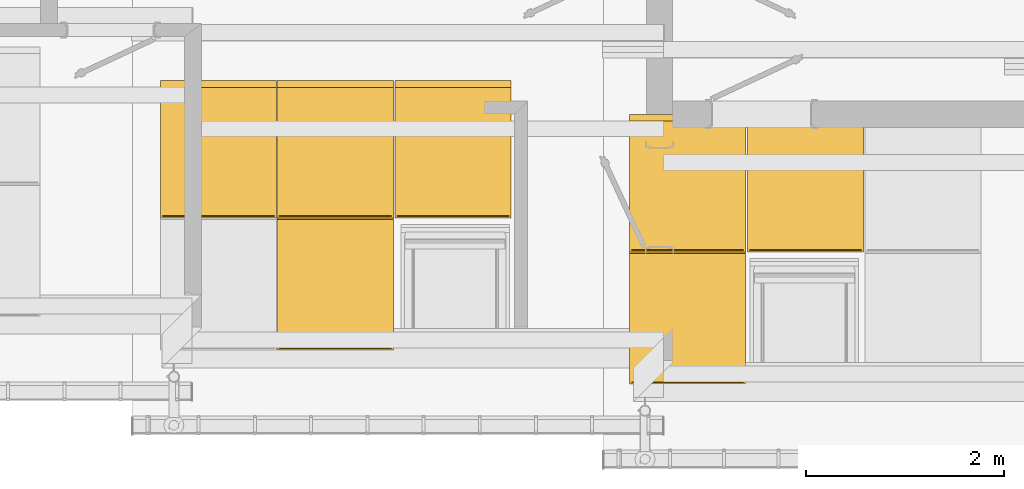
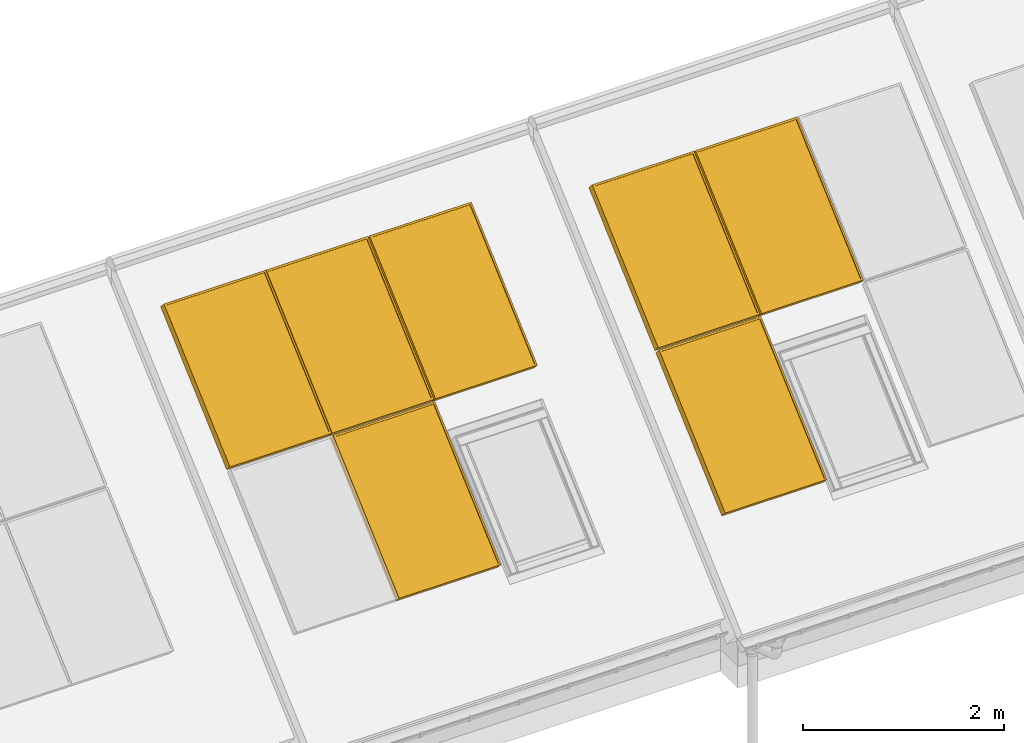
# One storey, part 14 of 43: 7 windows.
"""IFC2X3 building model written with IfcOpenShell, lengths in millimetres."""

import ifcopenshell
import ifcopenshell.guid

model = None  # the IFC model being written
_history = None  # IfcOwnerHistory: only IFC2X3 demands one
_inside = {}  # id of a spatial element -> (the spatial element, [elements in it])
_under = {}  # id of a project, library or spatial element -> (it, [spatial elements below it])
_declared = {}  # id of a project -> (the project, [libraries it declares])
_typed = {}  # id of a type object -> (the type object, [elements of that type])
_made_of = {}  # id of a material, layer set ... -> (it, [elements and type objects made of it])


def new_model(schema):
    """Start an empty IFC model of exactly this schema.

    Asked for "IFC4X3", IfcOpenShell would pick the latest addendum, in which some entities
    have other attributes; the version numbers below select the first issue.
    IFC2X3 requires an IfcOwnerHistory on every rooted entity: one is made here for all.
    """
    global model, _history
    if schema == "IFC4X3":
        model = ifcopenshell.file(schema_version=(4, 3, 0, 0))
    else:
        model = ifcopenshell.file(schema=schema)
    _inside.clear()
    _under.clear()
    _declared.clear()
    _typed.clear()
    _made_of.clear()
    _history = None
    if model.schema == "IFC2X3":
        org = make("IfcOrganization", Name="unknown")
        user = make(
            "IfcPersonAndOrganization",
            ThePerson=make("IfcPerson", FamilyName="unknown"),
            TheOrganization=org,
        )
        app = make(
            "IfcApplication",
            ApplicationDeveloper=org,
            Version="unknown",
            ApplicationFullName="unknown",
            ApplicationIdentifier="unknown",
        )
        _history = make(
            "IfcOwnerHistory",
            OwningUser=user,
            OwningApplication=app,
            ChangeAction="ADDED",
            CreationDate=0,
        )
    return model


def make(cls, **values):
    """One entity of the class cls with the attributes given. An attribute that is None is left unset."""
    return model.create_entity(
        cls, **{name: value for name, value in values.items() if value is not None}
    )


def rooted(cls, **values):
    """An entity with a GlobalId (a new one), such as an element, a storey or a relation."""
    return make(cls, GlobalId=ifcopenshell.guid.new(), OwnerHistory=_history, **values)


def si_unit(unit_type, name, prefix=None):
    """IfcSIUnit, for example si_unit("LENGTHUNIT", "METRE", prefix="MILLI")."""
    return make("IfcSIUnit", UnitType=unit_type, Prefix=prefix, Name=name)


def assignment(units):
    """IfcUnitAssignment: the units of a project."""
    return None if units is None else make("IfcUnitAssignment", Units=units)


def point(xyz):
    """IfcCartesianPoint."""
    return None if xyz is None else make("IfcCartesianPoint", Coordinates=xyz)


def direction(xyz):
    """IfcDirection."""
    return None if xyz is None else make("IfcDirection", DirectionRatios=xyz)


def frame(location, z_axis=None, x_axis=None):
    """IfcAxis2Placement3D, a coordinate frame: its origin and axes. An axis left out is left unset."""
    return make(
        "IfcAxis2Placement3D",
        Location=point(location),
        Axis=direction(z_axis),
        RefDirection=direction(x_axis),
    )


def origin_with_axes():
    """The frame at (0, 0, 0) with the z axis (0, 0, 1) and the x axis (1, 0, 0) written out."""
    return frame((0.0, 0.0, 0.0), z_axis=(0.0, 0.0, 1.0), x_axis=(1.0, 0.0, 0.0))


def place(relative_to, where):
    """IfcLocalPlacement: puts the frame where relative to a parent placement (None: the world)."""
    return make(
        "IfcLocalPlacement", PlacementRelTo=relative_to, RelativePlacement=where
    )


def context(
    kind, dimensions, precision=None, world=None, true_north=None, identifier=None
):
    """IfcGeometricRepresentationContext, for example the 3D "Model" context."""
    return make(
        "IfcGeometricRepresentationContext",
        ContextIdentifier=identifier,
        ContextType=kind,
        CoordinateSpaceDimension=dimensions,
        Precision=precision,
        WorldCoordinateSystem=world,
        TrueNorth=true_north,
    )


def project(units=None, contexts=None):
    """IfcProject with its units and contexts."""
    return rooted(
        "IfcProject",
        Name="project",
        RepresentationContexts=contexts,
        UnitsInContext=assignment(units),
    )


def spatial(cls, under=None, at=None, **own):
    """A site, building, storey or space (cls), placed at a placement, below another one or the project."""
    s = rooted(cls, ObjectPlacement=at, **own)
    if under is not None:
        _under.setdefault(under.id(), (under, []))[1].append(s)
    return s


def faces_of(points, faces, orient=None, outer=None):
    """IfcFace entities. A face is a list of loops; a loop is a list of indices into points, from 0.

    orient and outer hold one flag for each loop. By default every Orientation is true, the
    first loop of a face is its IfcFaceOuterBound and the others are IfcFaceBound.
    """
    made = []
    for i, loops in enumerate(faces):
        bounds = []
        for j, loop in enumerate(loops):
            is_outer = j == 0 if outer is None else outer[i][j]
            bounds.append(
                make(
                    "IfcFaceOuterBound" if is_outer else "IfcFaceBound",
                    Bound=make("IfcPolyLoop", Polygon=[points[k] for k in loop]),
                    Orientation=True if orient is None else orient[i][j],
                )
            )
        made.append(make("IfcFace", Bounds=bounds))
    return made


def faceted_brep(points, faces, orient=None, outer=None, voids=None):
    """IfcFacetedBrep: a solid bounded by flat faces; with voids (closed shells), ...WithVoids."""
    shared = [point(p) for p in points]
    hull = make("IfcClosedShell", CfsFaces=faces_of(shared, faces, orient, outer))
    if voids is None:
        return make("IfcFacetedBrep", Outer=hull)
    return make(
        "IfcFacetedBrepWithVoids",
        Outer=hull,
        Voids=[
            make(cls, CfsFaces=faces_of(shared, fs, o, b)) for cls, fs, o, b in voids
        ],
    )


def shape(context_of_items, identifier, shape_type, items):
    """IfcShapeRepresentation: the items that make up one representation, for example the "Body"."""
    return make(
        "IfcShapeRepresentation",
        ContextOfItems=context_of_items,
        RepresentationIdentifier=identifier,
        RepresentationType=shape_type,
        Items=items,
    )


def made_of(thing, what):
    """Note that an element or type object is made of a material, layer set ...; save() writes the relation."""
    if what is not None:
        _made_of.setdefault(what.id(), (what, []))[1].append(thing)
    return thing


def element(
    cls,
    number,
    at=None,
    inside=None,
    cuts=None,
    type_object=None,
    material=None,
    context=None,
    identifier="Body",
    shape_type=None,
    held_by="IfcProductDefinitionShape",
    body=None,
    shapes=None,
    **own,
):
    """One element of the class cls, such as IfcWall. Its Tag is "e" and its number.

    at: its placement. inside: the storey or other place that contains it. cuts: it is an
    opening in that element (IfcRelVoidsElement). A single representation is given by context,
    identifier, shape_type and body (its items); several are given by shapes. held_by: the class
    of the entity that holds the representations. save() writes the other relations.
    """
    e = rooted(cls, Tag="e%d" % number, ObjectPlacement=at, **own)
    if body is not None:
        shapes = [shape(context, identifier, shape_type, body)]
    if shapes is not None:
        e.Representation = make(held_by, Representations=shapes)
    if inside is not None:
        _inside.setdefault(inside.id(), (inside, []))[1].append(e)
    if cuts is not None:
        rooted(
            "IfcRelVoidsElement", RelatingBuildingElement=cuts, RelatedOpeningElement=e
        )
    if type_object is not None:
        _typed.setdefault(type_object.id(), (type_object, []))[1].append(e)
    return made_of(e, material)


def aggregate(whole, parts):
    """IfcRelAggregates: a whole, such as a stair, and the parts it consists of."""
    return rooted("IfcRelAggregates", RelatingObject=whole, RelatedObjects=parts)


def save(model, path):
    """Write the relations noted so far, then the file.

    IfcRelAggregates (storeys below a building ...), IfcRelContainedInSpatialStructure (elements
    in a storey), IfcRelDefinesByType, IfcRelAssociatesMaterial and IfcRelDeclares: one each for
    every whole, place, type object, material and project.
    """
    for whole, parts in _under.values():
        aggregate(whole, parts)
    for where, things in _inside.values():
        rooted(
            "IfcRelContainedInSpatialStructure",
            RelatedElements=things,
            RelatingStructure=where,
        )
    for kind, things in _typed.values():
        rooted("IfcRelDefinesByType", RelatedObjects=things, RelatingType=kind)
    for what, things in _made_of.values():
        rooted("IfcRelAssociatesMaterial", RelatedObjects=things, RelatingMaterial=what)
    for by, libraries in _declared.values():
        rooted("IfcRelDeclares", RelatingContext=by, RelatedDefinitions=libraries)
    model.write(path)


model = new_model("IFC2X3")

# Units and contexts
model_context = context("Model", 3, world=origin_with_axes())
ifc_project = project(units=[si_unit("LENGTHUNIT", "METRE", prefix="MILLI")], contexts=[model_context])

# Site, building, storey
site_placement = place(None, origin_with_axes())
site = spatial("IfcSite", under=ifc_project, at=site_placement, Name="Site", CompositionType="ELEMENT")
building_placement = place(site_placement, origin_with_axes())
building = spatial("IfcBuilding", under=site, at=building_placement, Name="?", CompositionType="ELEMENT")
storey_placement = place(building_placement, frame((0.0, 0.0, 5938.0), z_axis=(0.0, 0.0, 1.0), x_axis=(1.0, 0.0, 0.0)))
storey = spatial("IfcBuildingStorey", under=building, at=storey_placement, Name="Dachgeschoß", CompositionType="ELEMENT", Elevation=5938.0)

# Windows
placement_1 = place(None, origin_with_axes())
placement_2 = place(placement_1, frame((9500.0, -7098.0, 6767.55029296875), z_axis=(0.0, -0.669130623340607, 0.743144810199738), x_axis=(1.00000000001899, 0.0, 0.0)))
placement_3 = place(placement_2, frame((-20.9999999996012, 4260.5996621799, 429.999637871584), z_axis=(0.0, -0.99999995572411, -3.98832931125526e-08), x_axis=(1.00000000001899, 0.0, 0.0)))
window_1_placement = place(placement_3, origin_with_axes())
element("IfcWindow", 1, at=window_1_placement, inside=storey, Name="SO", OverallHeight=1730.0, OverallWidth=1130.0, context=model_context, shape_type="Brep", body=[
    faceted_brep([(1150.0, 50.0005427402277, -65.0251585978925), (1130.0, 50.000325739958, -45.0251001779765), (0.0, 50.000325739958, -45.0251001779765), (-19.9990234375, 50.0005427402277, -65.0251585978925), (1150.0, 150.000537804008, -65.0251223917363), (1150.0, 50.0005405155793, -65.0251604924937), (-19.9990234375, 50.0005405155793, -65.0251604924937), (-19.9990234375, 150.000537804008, -65.0251223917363), (1130.0, 150.000320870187, -45.0250643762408), (1150.0, 150.000537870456, -65.0251227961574), (-19.9990234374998, 150.000537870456, -65.0251227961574), (2.27373675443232e-13, 150.000320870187, -45.0250643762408), (1130.0, 50.0003258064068, -45.025100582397), (1130.0, 150.000323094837, -45.0250624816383), (2.27373675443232e-13, 150.000323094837, -45.0250624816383), (2.27373675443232e-13, 50.0003258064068, -45.025100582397), (-19.9990234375, 50.0005427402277, -65.0251585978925), (-5.54355210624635e-08, 49.9988183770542, -45.0250996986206), (7.5864591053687e-08, 50.0003436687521, 1684.98772133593), (-20.0000001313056, 50.0021033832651, 1704.98727134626), (-19.9990234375, 150.000537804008, -65.0251223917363), (-19.9990234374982, 50.0005427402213, -65.0251585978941), (-20.0000000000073, 50.0036118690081, 1704.98719324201), (-20.0000000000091, 150.003606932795, 1704.98722944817), (-1.81898940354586e-12, 150.000320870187, -45.0250643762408), (-19.9990233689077, 150.002211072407, -65.0251223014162), (-20.0000000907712, 150.003552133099, 1704.98722143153), (1.59356204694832e-07, 150.00163153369, 1684.98730953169), (0.0, 50.0003258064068, -45.025100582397), (0.0, 150.000320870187, -45.0250643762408), (0.0, 150.000013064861, 1684.98731745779), (0.0, 50.0003447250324, 1684.98764411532), (-20.0000000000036, 50.003611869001, 1704.98719324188), (2.6102497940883e-09, 50.0020564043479, 1684.98764338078), (1130.00000000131, 50.0003446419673, 1684.98764351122), (1149.99902344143, 50.0018395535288, 1704.98770200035), (-20.0, 150.00360693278, 1704.98722944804), (-19.9999999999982, 50.0036096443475, 1704.98719134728), (1149.99902343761, 50.0001255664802, 1704.98770023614), (1149.99902343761, 150.00012285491, 1704.9877383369), (-1.81898943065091e-12, 150.000013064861, 1684.98731745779), (-20.0000000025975, 150.001728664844, 1704.98722947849), (1149.99902343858, 150.000122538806, 1704.98773820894), (1129.99999999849, 149.998461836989, 1684.98768047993), (-1.81898940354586e-12, 50.0003447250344, 1684.98764411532), (-3.2741809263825e-11, 150.000012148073, 1684.98750057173), (1130.00000000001, 150.000338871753, 1684.98768200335), (1129.99999999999, 50.0003447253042, 1684.98782554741), (1149.9990234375, 50.0001277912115, 1704.98770213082), (1130.0, 50.00013036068, 1684.98764429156), (1130.0, 50.0003526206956, -45.0250851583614), (1150.0, 50.0003551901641, -65.0251429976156), (1149.9990234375, 150.000122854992, 1704.98773833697), (1149.9990234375, 50.0001277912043, 1704.98770213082), (1149.99999999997, 50.0005427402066, -65.0251585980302), (1149.99999999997, 150.000537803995, -65.0251223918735), (1130.0, 150.000339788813, 1684.98768032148), (1149.9990234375, 150.000337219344, 1704.98773816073), (1150.0, 150.000564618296, -65.0251069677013), (1130.0, 150.000562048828, -45.0250491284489), (1130.0, 50.0003447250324, 1684.98764411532), (1130.0, 150.000339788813, 1684.98768032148), (1130.0, 150.000320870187, -45.0250643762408), (1130.0, 50.0003258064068, -45.025100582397), (0.0, 140.000110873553, -45.0250098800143), (0.0, 140.000325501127, 1684.98498411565), (1130.0, 140.000325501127, 1684.98498411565), (1130.0, 140.000110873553, -45.0250098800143), (0.0, 129.999900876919, -45.0249553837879), (1130.0, 129.999900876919, -45.0249553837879), (1130.0, 130.000115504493, 1684.98503861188), (0.0, 130.000115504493, 1684.98503861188), (0.0, 129.999900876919, -45.0249553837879), (0.0, 130.000115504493, 1684.98503861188), (1130.0, 130.000115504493, 1684.98503861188), (1130.0, 129.999900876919, -45.0249553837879)], [[[0, 1, 2, 3]], [[4, 5, 6, 7]], [[8, 9, 10, 11]], [[12, 13, 14, 15]], [[16, 17, 18, 19]], [[20, 21, 22, 23]], [[24, 25, 26, 27]], [[28, 29, 30, 31]], [[32, 33, 34, 35]], [[36, 37, 38, 39]], [[40, 41, 42, 43]], [[44, 45, 46, 47]], [[48, 49, 50, 51]], [[52, 53, 54, 55]], [[56, 57, 58, 59]], [[60, 61, 62, 63]], [[64, 65, 66, 67]], [[68, 69, 70, 71]], [[72, 73, 74, 75]]]),
])
placement_4 = place(placement_2, frame((1166.99999997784, 4260.5996621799, 429.999637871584), z_axis=(0.0, -1.00000000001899, 0.0), x_axis=(1.00000000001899, 0.0, 0.0)))
window_2_placement = place(placement_4, origin_with_axes())
element("IfcWindow", 2, at=window_2_placement, inside=storey, Name="SO", OverallHeight=1730.0, OverallWidth=1130.0, context=model_context, shape_type="Brep", body=[
    faceted_brep([(1150.0, 50.0005453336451, -65.0251557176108), (1130.0, 50.0003275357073, -45.025098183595), (0.0, 50.0003275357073, -45.025098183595), (-19.9990234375, 50.0005453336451, -65.0251557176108), (1150.0, 150.000540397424, -65.0251195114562), (1150.0, 50.0005431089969, -65.0251576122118), (-19.9990234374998, 50.0005431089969, -65.0251576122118), (-19.9990234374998, 150.000540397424, -65.0251195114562), (1130.0, 150.000322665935, -45.0250623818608), (1150.0, 150.000540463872, -65.0251199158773), (-19.9990234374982, 150.000540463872, -65.0251199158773), (1.81898940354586e-12, 150.000322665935, -45.0250623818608), (1130.0, 50.000327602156, -45.0250985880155), (1130.0, 150.000324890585, -45.0250604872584), (0.0, 150.000324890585, -45.0250604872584), (0.0, 50.000327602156, -45.0250985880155), (-19.9990234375, 50.0005453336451, -65.0251557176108), (-5.54391554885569e-08, 49.9988193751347, -45.0250985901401), (7.58664135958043e-08, 50.0002066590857, 1684.97443087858), (-20.0000001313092, 50.0019647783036, 1704.97397911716), (-19.9990234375, 150.000540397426, -65.0251195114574), (-19.9990234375, 50.0005453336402, -65.0251557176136), (-20.0000000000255, 50.0035409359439, 1704.9739794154), (-20.0000000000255, 150.003535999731, 1704.97401562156), (-1.81899113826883e-12, 150.000322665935, -45.0250623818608), (-19.9990233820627, 150.002048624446, -65.0251195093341), (-20.0000000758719, 150.003468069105, 1704.97401532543), (1.31305569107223e-07, 150.001709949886, 1684.97446708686), (0.0, 50.000327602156, -45.0250985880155), (0.0, 150.000322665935, -45.0250623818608), (0.0, 150.000269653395, 1684.97446738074), (0.0, 50.0002745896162, 1684.97443117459), (-20.0, 50.0035409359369, 1704.97397941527), (2.61570676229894e-09, 50.0019862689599, 1684.97443044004), (1130.00000000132, 50.0002745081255, 1684.97443057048), (1150.00097656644, 50.0017686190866, 1704.97448817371), (-20.0, 150.003535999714, 1704.97401562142), (-20.0, 50.0035387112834, 1704.97397752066), (1150.00097656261, 50.0000546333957, 1704.97448640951), (1150.00097656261, 150.000051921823, 1704.97452451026), (-1.81898934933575e-12, 150.000269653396, 1684.97446738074), (-20.0000000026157, 150.001824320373, 1704.97401635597), (1150.00097656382, 150.000052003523, 1704.97452511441), (1129.9999999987, 149.998557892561, 1684.97446751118), (0.0, 50.0002745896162, 1684.97443117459), (0.0, 150.000271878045, 1684.97446927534), (1130.0, 150.000271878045, 1684.97446927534), (1130.0, 50.0002745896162, 1684.97443117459), (1150.0009765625, 50.0000568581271, 1704.97448830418), (1130.0, 50.000060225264, 1684.97443135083), (1130.0, 50.0003514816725, -45.0250831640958), (1150.0, 50.0003548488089, -65.0251401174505), (1150.0009765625, 150.000051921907, 1704.97452451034), (1150.0009765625, 50.0000568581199, 1704.97448830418), (1150.00000000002, 50.000545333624, -65.0251557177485), (1150.00000000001, 150.000540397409, -65.0251195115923), (1130.0, 150.000269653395, 1684.97446738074), (1150.0009765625, 150.000266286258, 1704.97452433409), (1150.0, 150.000564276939, -65.0251040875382), (1130.0, 150.000560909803, -45.0250471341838), (1130.0, 50.0002745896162, 1684.97443117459), (1130.0, 150.000269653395, 1684.97446738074), (1130.0, 150.000322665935, -45.0250623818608), (1130.0, 50.000327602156, -45.0250985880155), (-1.81898940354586e-12, 140.000112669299, -45.0250078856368), (-1.18234311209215e-10, 139.999675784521, 1684.97515244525), (1130.00000000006, 140.000038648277, 1684.97449899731), (1129.99999999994, 140.00047553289, -45.0250078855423), (1.81898940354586e-12, 129.999902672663, -45.0249533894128), (1129.99999999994, 130.000265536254, -45.0249533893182), (1130.00000000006, 129.999828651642, 1684.97455349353), (-1.14596332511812e-10, 129.999465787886, 1684.97520694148), (1.81898940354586e-12, 129.999902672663, -45.0249533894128), (-1.14596332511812e-10, 129.999465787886, 1684.97520694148), (1130.00000000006, 129.999828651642, 1684.97455349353), (1129.99999999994, 130.000265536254, -45.0249533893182)], [[[0, 1, 2, 3]], [[4, 5, 6, 7]], [[8, 9, 10, 11]], [[12, 13, 14, 15]], [[16, 17, 18, 19]], [[20, 21, 22, 23]], [[24, 25, 26, 27]], [[28, 29, 30, 31]], [[32, 33, 34, 35]], [[36, 37, 38, 39]], [[40, 41, 42, 43]], [[44, 45, 46, 47]], [[48, 49, 50, 51]], [[52, 53, 54, 55]], [[56, 57, 58, 59]], [[60, 61, 62, 63]], [[64, 65, 66, 67]], [[68, 69, 70, 71]], [[72, 73, 74, 75]]]),
])
placement_5 = place(placement_2, frame((-20.9999999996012, 2467.22791718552, 429.99957544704), z_axis=(0.0, -1.00000000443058, 8.4178175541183e-08), x_axis=(1.00000000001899, 0.0, 0.0)))
window_3_placement = place(placement_5, origin_with_axes())
element("IfcWindow", 3, at=window_3_placement, inside=storey, Name="SO", OverallHeight=1730.0, OverallWidth=1130.0, context=model_context, shape_type="Brep", body=[
    faceted_brep([(1150.0, 50.0005161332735, -65.0178966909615), (1130.0, 50.0002966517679, -45.0178392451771), (-1.59161572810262e-12, 50.0002966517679, -45.0178392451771), (-20.0000000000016, 50.0005161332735, -65.0178966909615), (1150.0, 150.00051119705, -65.017860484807), (1150.0, 50.0005139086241, -65.0178985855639), (-20.0, 50.0005139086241, -65.0178985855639), (-20.0, 150.00051119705, -65.017860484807), (1130.0, 150.000291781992, -45.0178034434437), (1150.0, 150.000511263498, -65.0178608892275), (-20.0000000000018, 150.000511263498, -65.0178608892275), (-1.81898940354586e-12, 150.000291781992, -45.0178034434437), (1130.0, 50.0002967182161, -45.0178396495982), (1130.0, 150.000294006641, -45.0178015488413), (2.27373675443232e-13, 150.000294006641, -45.0178015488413), (2.27373675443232e-13, 50.0002967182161, -45.0178396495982), (-19.9999999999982, 50.0005161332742, -65.0178966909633), (-4.30391082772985e-08, 49.9989648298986, -45.0178399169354), (6.0888851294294e-08, 49.9997696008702, 1684.98129616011), (-20.0000001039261, 50.001339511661, 1704.98117076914), (-20.0, 150.00051119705, -65.017860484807), (-20.0, 50.0005161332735, -65.0178966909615), (-20.0, 50.002673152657, 1704.98119449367), (-20.0, 150.002668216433, 1704.98123069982), (-1.81898940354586e-12, 150.000291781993, -45.0178034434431), (-19.9999999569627, 150.001843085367, -65.0178602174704), (-20.000000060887, 150.002666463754, 1704.98120724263), (1.03926140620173e-07, 150.001096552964, 1684.98133263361), (0.0, 50.0002967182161, -45.0178396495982), (0.0, 150.000291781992, -45.0178034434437), (0.0, 149.999766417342, 1684.98135582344), (0.0, 49.9997713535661, 1684.98131961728), (-19.9999999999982, 50.002673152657, 1704.98119449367), (2.09729478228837e-09, 50.001304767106, 1684.98131914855), (1130.00000000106, 49.9997712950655, 1684.98131925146), (1150.00000000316, 50.0010854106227, 1704.98137655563), (-20.0, 150.002668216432, 1704.98123069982), (-20.0000000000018, 50.0026709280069, 1704.98119259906), (1150.00000000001, 49.9995497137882, 1704.98137476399), (1150.00000000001, 149.999547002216, 1704.98141286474), (-3.63797883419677e-12, 149.999766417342, 1684.98135582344), (-20.0000000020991, 150.001134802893, 1704.98123116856), (1150.00000000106, 149.999547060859, 1704.98141323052), (1129.99999999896, 149.998232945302, 1684.98135592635), (0.0, 49.9997713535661, 1684.98131961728), (0.0, 149.999768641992, 1684.98135771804), (1130.0, 149.999768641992, 1684.98135771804), (1130.0, 49.9997713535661, 1684.98131961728), (1150.0, 49.9995519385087, 1704.98137665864), (1130.0, 49.9995603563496, 1684.98131996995), (1130.0, 50.000288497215, -45.0178087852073), (1150.0, 50.0002969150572, -65.0178654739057), (1150.0, 149.999547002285, 1704.9814128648), (1150.0, 49.9995519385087, 1704.98137665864), (1150.0, 50.0005161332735, -65.0178966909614), (1150.0, 150.00051119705, -65.017860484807), (1130.0, 149.999766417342, 1684.98135582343), (1150.0, 149.9997579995, 1704.98141251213), (1150.0, 150.000502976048, -65.0178296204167), (1130.0, 150.000494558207, -45.0177729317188), (1130.0, 49.9997713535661, 1684.98131961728), (1130.0, 149.999766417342, 1684.98135582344), (1130.0, 150.000291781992, -45.0178034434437), (1130.0, 50.0002967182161, -45.0178396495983), (0.0, 140.000081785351, -45.0177489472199), (0.0, 139.999499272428, 1684.9820770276), (1130.0, 139.999499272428, 1684.9820770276), (1130.0, 140.000081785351, -45.0177489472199), (0.0, 129.999871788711, -45.0176944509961), (1130.0, 129.999871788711, -45.0176944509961), (1130.0, 129.999289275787, 1684.98213152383), (0.0, 129.999289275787, 1684.98213152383), (0.0, 129.999871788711, -45.0176944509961), (0.0, 129.999289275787, 1684.98213152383), (1130.0, 129.999289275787, 1684.98213152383), (1130.0, 129.999871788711, -45.0176944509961)], [[[0, 1, 2, 3]], [[4, 5, 6, 7]], [[8, 9, 10, 11]], [[12, 13, 14, 15]], [[16, 17, 18, 19]], [[20, 21, 22, 23]], [[24, 25, 26, 27]], [[28, 29, 30, 31]], [[32, 33, 34, 35]], [[36, 37, 38, 39]], [[40, 41, 42, 43]], [[44, 45, 46, 47]], [[48, 49, 50, 51]], [[52, 53, 54, 55]], [[56, 57, 58, 59]], [[60, 61, 62, 63]], [[64, 65, 66, 67]], [[68, 69, 70, 71]], [[72, 73, 74, 75]]]),
])
placement_6 = place(None, origin_with_axes())
placement_7 = place(placement_6, frame((4750.0, -6756.0, 6767.55029296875), z_axis=(0.0, -0.669130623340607, 0.743144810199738), x_axis=(1.00000000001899, 0.0, 0.0)))
placement_8 = place(placement_7, frame((3.99999999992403, 4260.59911788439, 430.00012795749), z_axis=(0.0, -1.00000000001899, 0.0), x_axis=(1.00000000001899, 0.0, 0.0)))
window_4_placement = place(placement_8, origin_with_axes())
element("IfcWindow", 4, at=window_4_placement, inside=storey, Name="SO", OverallHeight=1730.0, OverallWidth=1130.0, context=model_context, shape_type="Brep", body=[
    faceted_brep([(1150.0, 50.0000552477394, -65.025700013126), (1130.0, 49.9998374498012, -45.0256424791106), (6.82121026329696e-13, 49.9998374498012, -45.0256424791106), (-19.9999999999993, 50.0000552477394, -65.025700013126), (1150.0, 150.000050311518, -65.0256638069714), (1150.0, 50.0000530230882, -65.0257019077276), (-19.9999999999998, 50.0000530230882, -65.0257019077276), (-19.9999999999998, 150.000050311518, -65.0256638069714), (1130.0, 149.999832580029, -45.0256066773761), (1150.0, 150.000050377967, -65.0256642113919), (-20.0000000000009, 150.000050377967, -65.0256642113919), (-9.09494701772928e-13, 149.999832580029, -45.0256066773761), (1130.0, 49.9998375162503, -45.0256428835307), (1130.0, 149.999834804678, -45.025604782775), (-6.82121026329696e-13, 149.999834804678, -45.025604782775), (-6.82121026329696e-13, 49.9998375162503, -45.0256428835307), (-20.0, 50.0000552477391, -65.0257000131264), (-4.15711802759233e-08, 49.9985270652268, -45.0256429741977), (5.94845914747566e-08, 49.9997687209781, 1684.97387886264), (-20.0000001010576, 50.0013256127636, 1704.9744433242), (-20.0, 150.000050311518, -65.0256638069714), (-20.0, 50.0000552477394, -65.025700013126), (-20.0, 50.0026518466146, 1704.9744514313), (-20.0, 150.002646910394, 1704.97448763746), (-9.09496436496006e-13, 149.999832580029, -45.0256066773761), (-19.9999999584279, 150.001360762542, -65.0256637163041), (-20.0000000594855, 150.002631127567, 1704.97447962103), (1.01055775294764e-07, 150.00107423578, 1684.97391515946), (0.0, 49.9998375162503, -45.0256428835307), (0.0, 149.999832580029, -45.0256066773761), (0.0, 149.99977956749, 1684.97392308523), (0.0, 49.9997845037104, 1684.97388687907), (-19.9999999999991, 50.0026518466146, 1704.9744514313), (2.05181649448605e-09, 50.0012997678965, 1684.97388649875), (1130.00000000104, 49.9997840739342, 1684.97388659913), (1150.00000000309, 50.0010824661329, 1704.97394390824), (-20.0, 150.002646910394, 1704.97448763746), (-20.0, 50.0026496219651, 1704.9744495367), (1150.00000000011, 49.9995645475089, 1704.97394211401), (1150.00000000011, 149.999561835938, 1704.97398021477), (0.0, 149.99977956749, 1684.97392308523), (-20.0000000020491, 150.001131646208, 1704.97448801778), (1150.00000000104, 149.999562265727, 1704.97398049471), (1129.99999999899, 149.998263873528, 1684.9739231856), (9.09494701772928e-13, 49.9997845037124, 1684.97388687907), (9.09494701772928e-13, 149.999781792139, 1684.97392497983), (1130.0, 149.999781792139, 1684.97392497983), (1130.0, 49.9997845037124, 1684.97388687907), (1150.0, 49.9995667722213, 1704.97394400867), (1130.0, 49.9995701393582, 1684.97388705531), (1130.0, 49.9998613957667, -45.0256274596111), (1150.0, 49.9998647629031, -65.0256844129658), (1150.0, 149.999561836, 1704.97398021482), (1150.0, 49.9995667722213, 1704.97394400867), (1150.0, 50.0000552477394, -65.025700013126), (1150.0, 150.000050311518, -65.0256638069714), (1130.0, 149.99977956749, 1684.97392308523), (1150.0, 149.999776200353, 1704.97398003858), (1150.0, 150.000074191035, -65.0256483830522), (1130.0, 150.000070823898, -45.0255914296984), (1130.0, 49.9997845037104, 1684.97388687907), (1130.0, 149.99977956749, 1684.97392308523), (1130.0, 149.999832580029, -45.0256066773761), (1130.0, 49.9998375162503, -45.0256428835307), (0.0, 139.999622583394, -45.0255521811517), (-1.81898941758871e-11, 139.999622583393, 1684.97397759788), (1130.00000000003, 139.999867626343, 1684.97434046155), (1130.00000000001, 139.999867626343, -45.0253707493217), (0.0, 129.999412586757, -45.0254976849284), (1130.00000000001, 129.999657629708, -45.0253162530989), (1130.00000000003, 129.999657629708, 1684.97439495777), (-1.81898939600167e-11, 129.999412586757, 1684.9740320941), (0.0, 129.999412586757, -45.0254976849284), (-1.81898939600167e-11, 129.999412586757, 1684.9740320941), (1130.00000000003, 129.999657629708, 1684.97439495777), (1130.00000000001, 129.999657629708, -45.0253162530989)], [[[0, 1, 2, 3]], [[4, 5, 6, 7]], [[8, 9, 10, 11]], [[12, 13, 14, 15]], [[16, 17, 18, 19]], [[20, 21, 22, 23]], [[24, 25, 26, 27]], [[28, 29, 30, 31]], [[32, 33, 34, 35]], [[36, 37, 38, 39]], [[40, 41, 42, 43]], [[44, 45, 46, 47]], [[48, 49, 50, 51]], [[52, 53, 54, 55]], [[56, 57, 58, 59]], [[60, 61, 62, 63]], [[64, 65, 66, 67]], [[68, 69, 70, 71]], [[72, 73, 74, 75]]]),
])
placement_9 = place(placement_7, frame((1178.99999997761, 4260.59911788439, 430.00012795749), z_axis=(0.0, -1.00000000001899, 0.0), x_axis=(1.00000000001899, 0.0, 0.0)))
window_5_placement = place(placement_9, origin_with_axes())
element("IfcWindow", 5, at=window_5_placement, inside=storey, Name="SO", OverallHeight=1730.0, OverallWidth=1130.0, context=model_context, shape_type="Brep", body=[
    faceted_brep([(1150.00048828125, 50.0000552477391, -65.0257000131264), (1130.0, 49.9998374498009, -45.025642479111), (0.0, 49.9998374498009, -45.025642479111), (-20.0, 50.0000552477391, -65.0257000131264), (1150.00048828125, 150.000050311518, -65.0256638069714), (1150.00048828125, 50.0000530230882, -65.0257019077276), (-19.9999999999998, 50.0000530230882, -65.0257019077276), (-19.9999999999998, 150.000050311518, -65.0256638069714), (1130.0, 149.999832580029, -45.0256066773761), (1150.00048828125, 150.000050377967, -65.0256642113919), (-20.0000000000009, 150.000050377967, -65.0256642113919), (-9.09494701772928e-13, 149.999832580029, -45.0256066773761), (1130.0, 49.9998375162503, -45.0256428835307), (1130.0, 149.999834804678, -45.025604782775), (2.27373675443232e-13, 149.999834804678, -45.025604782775), (2.27373675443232e-13, 49.9998375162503, -45.0256428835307), (-20.0, 50.0000552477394, -65.025700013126), (-5.54391590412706e-08, 49.9983292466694, -45.0256428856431), (7.58664135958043e-08, 49.9997165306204, 1684.97388658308), (-20.0000001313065, 50.0014746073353, 1704.97343482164), (-20.0, 150.000050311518, -65.0256638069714), (-20.0, 50.0000552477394, -65.025700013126), (-20.0, 50.0030508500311, 1704.97343511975), (-20.0, 150.00304591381, 1704.97347132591), (-9.09498171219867e-13, 149.999832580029, -45.0256066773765), (-19.9999999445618, 150.001558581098, -65.0256638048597), (-20.0000000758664, 150.002977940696, 1704.97347102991), (1.31305569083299e-07, 150.001219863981, 1684.97392279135), (0.0, 49.9998375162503, -45.0256428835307), (0.0, 149.999832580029, -45.0256066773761), (0.0, 149.99977956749, 1684.97392308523), (0.0, 49.9997845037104, 1684.97388687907), (-20.0, 50.0030508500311, 1704.97343511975), (2.61752575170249e-09, 50.0014961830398, 1684.97388614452), (1130.00000000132, 49.999784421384, 1684.97388627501), (1150.00000000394, 50.0012785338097, 1704.97394387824), (-19.9999999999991, 150.00304591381, 1704.97347132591), (-20.0, 50.0030486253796, 1704.97343322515), (1150.00000000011, 49.9995645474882, 1704.97394211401), (1150.00000000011, 149.999561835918, 1704.97398021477), (-9.09494701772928e-13, 149.99977956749, 1684.97392308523), (-20.0000000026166, 150.001334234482, 1704.97347206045), (1150.00000000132, 149.999561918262, 1704.97398081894), (1129.9999999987, 149.998067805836, 1684.97392321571), (0.0, 49.9997845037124, 1684.97388687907), (0.0, 149.999781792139, 1684.97392497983), (1130.0, 149.999781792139, 1684.97392497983), (1130.0, 49.9997845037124, 1684.97388687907), (1150.0, 49.9995667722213, 1704.97394400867), (1130.0, 49.9995701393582, 1684.97388705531), (1130.0, 49.9998613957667, -45.0256274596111), (1150.00048828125, 49.9998647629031, -65.0256844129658), (1150.0, 149.999561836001, 1704.97398021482), (1150.0, 49.9995667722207, 1704.97394400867), (1150.00048828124, 50.0000552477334, -65.0257000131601), (1150.00048828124, 150.000050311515, -65.0256638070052), (1130.0, 149.99977956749, 1684.97392308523), (1150.0, 149.999776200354, 1704.97398003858), (1150.00048828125, 150.000074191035, -65.0256483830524), (1130.0, 150.000070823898, -45.0255914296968), (1130.0, 49.9997845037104, 1684.97388687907), (1130.0, 149.99977956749, 1684.97392308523), (1130.0, 149.999832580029, -45.0256066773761), (1130.0, 49.9998375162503, -45.0256428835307), (0.0, 139.999622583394, -45.0255521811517), (-1.81898941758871e-11, 139.999622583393, 1684.97397759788), (1130.00000000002, 139.999867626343, 1684.97434046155), (1130.00000000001, 139.999867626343, -45.0253707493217), (-1.81898940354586e-12, 129.999412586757, -45.0254976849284), (1130.00000000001, 129.999657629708, -45.0253162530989), (1130.00000000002, 129.999657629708, 1684.97439495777), (-2.00088833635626e-11, 129.999412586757, 1684.9740320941), (-1.81898940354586e-12, 129.999412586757, -45.0254976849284), (-2.00088833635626e-11, 129.999412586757, 1684.9740320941), (1130.00000000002, 129.999657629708, 1684.97439495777), (1130.00000000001, 129.999657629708, -45.0253162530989)], [[[0, 1, 2, 3]], [[4, 5, 6, 7]], [[8, 9, 10, 11]], [[12, 13, 14, 15]], [[16, 17, 18, 19]], [[20, 21, 22, 23]], [[24, 25, 26, 27]], [[28, 29, 30, 31]], [[32, 33, 34, 35]], [[36, 37, 38, 39]], [[40, 41, 42, 43]], [[44, 45, 46, 47]], [[48, 49, 50, 51]], [[52, 53, 54, 55]], [[56, 57, 58, 59]], [[60, 61, 62, 63]], [[64, 65, 66, 67]], [[68, 69, 70, 71]], [[72, 73, 74, 75]]]),
])
placement_10 = place(placement_7, frame((2366.99999995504, 4260.59911788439, 430.00012795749), z_axis=(0.0, -1.00000000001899, 0.0), x_axis=(1.00000000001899, 0.0, 0.0)))
window_6_placement = place(placement_10, origin_with_axes())
element("IfcWindow", 6, at=window_6_placement, inside=storey, Name="SO", OverallHeight=1730.0, OverallWidth=1130.0, context=model_context, shape_type="Brep", body=[
    faceted_brep([(1150.0, 50.0000552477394, -65.025700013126), (1130.0, 49.9998374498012, -45.0256424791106), (-2.27373675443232e-13, 49.9998374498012, -45.0256424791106), (-20.0000000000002, 50.0000552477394, -65.025700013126), (1150.0, 150.000050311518, -65.0256638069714), (1150.0, 50.0000530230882, -65.0257019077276), (-19.9999999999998, 50.0000530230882, -65.0257019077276), (-19.9999999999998, 150.000050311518, -65.0256638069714), (1130.0, 149.999832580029, -45.0256066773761), (1150.0, 150.000050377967, -65.0256642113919), (-20.0, 150.000050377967, -65.0256642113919), (0.0, 149.999832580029, -45.0256066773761), (1130.0, 49.9998375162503, -45.0256428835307), (1130.0, 149.999834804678, -45.025604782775), (2.04636307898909e-12, 149.999834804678, -45.025604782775), (2.04636307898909e-12, 49.9998375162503, -45.0256428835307), (-20.0, 50.0000552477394, -65.025700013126), (-5.54373400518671e-08, 49.9983292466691, -45.0256428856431), (7.58682325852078e-08, 49.9997165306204, 1684.97388658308), (-20.0000001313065, 50.0014746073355, 1704.97343482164), (-20.0, 150.000050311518, -65.0256638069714), (-20.0, 50.0000552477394, -65.025700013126), (-20.0, 50.0030508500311, 1704.97343511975), (-20.0, 150.00304591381, 1704.97347132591), (-9.09496436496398e-13, 149.999832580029, -45.0256066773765), (-19.9999999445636, 150.001558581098, -65.0256638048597), (-20.0000000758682, 150.002977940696, 1704.97347102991), (1.31305569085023e-07, 150.001219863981, 1684.97392279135), (0.0, 49.9998375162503, -45.0256428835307), (0.0, 149.999832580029, -45.0256066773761), (0.0, 149.99977956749, 1684.97392308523), (0.0, 49.9997845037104, 1684.97388687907), (-20.0, 50.0030508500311, 1704.97343511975), (2.61661625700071e-09, 50.0014961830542, 1684.97388614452), (1130.00000000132, 49.9997844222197, 1684.97388627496), (1150.00097656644, 50.0012785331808, 1704.97394387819), (-20.0000000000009, 150.00304591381, 1704.97347132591), (-20.0000000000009, 50.0030486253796, 1704.97343322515), (1150.00097656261, 49.99956454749, 1704.97394211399), (1150.00097656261, 149.999561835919, 1704.97398021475), (-9.09494701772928e-13, 149.99977956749, 1684.97392308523), (-20.0000000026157, 150.001334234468, 1704.97347206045), (1150.00097656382, 149.999561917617, 1704.97398081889), (1129.9999999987, 149.998067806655, 1684.97392321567), (0.0, 49.9997845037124, 1684.97388687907), (0.0, 149.999781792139, 1684.97392497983), (1130.0, 149.999781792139, 1684.97392497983), (1130.0, 49.9997845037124, 1684.97388687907), (1150.0009765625, 49.9995667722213, 1704.97394400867), (1130.0, 49.9995701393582, 1684.97388705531), (1130.0, 49.9998613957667, -45.0256274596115), (1150.0, 49.9998647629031, -65.0256844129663), (1150.0009765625, 149.999561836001, 1704.97398021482), (1150.0009765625, 49.9995667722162, 1704.97394400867), (1150.00000000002, 50.0000552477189, -65.0257000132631), (1150.00000000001, 150.000050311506, -65.0256638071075), (1130.0, 149.99977956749, 1684.97392308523), (1150.0009765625, 149.999776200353, 1704.97398003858), (1150.0, 150.000074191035, -65.0256483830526), (1130.0, 150.000070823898, -45.0255914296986), (1130.0, 49.9997845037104, 1684.97388687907), (1130.0, 149.99977956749, 1684.97392308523), (1130.0, 149.999832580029, -45.0256066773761), (1130.0, 49.9998375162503, -45.0256428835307), (9.09494701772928e-13, 139.999622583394, -45.0255521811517), (-1.7280399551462e-11, 139.999622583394, 1684.97397759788), (1130.00000000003, 139.999867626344, 1684.97434046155), (1130.00000000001, 139.999867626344, -45.0253707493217), (0.0, 129.999412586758, -45.0254976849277), (1130.00000000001, 129.999657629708, -45.0253162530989), (1130.00000000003, 129.999657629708, 1684.97439495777), (-1.81898940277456e-11, 129.999412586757, 1684.9740320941), (0.0, 129.999412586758, -45.0254976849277), (-1.81898940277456e-11, 129.999412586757, 1684.9740320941), (1130.00000000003, 129.999657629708, 1684.97439495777), (1130.00000000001, 129.999657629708, -45.0253162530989)], [[[0, 1, 2, 3]], [[4, 5, 6, 7]], [[8, 9, 10, 11]], [[12, 13, 14, 15]], [[16, 17, 18, 19]], [[20, 21, 22, 23]], [[24, 25, 26, 27]], [[28, 29, 30, 31]], [[32, 33, 34, 35]], [[36, 37, 38, 39]], [[40, 41, 42, 43]], [[44, 45, 46, 47]], [[48, 49, 50, 51]], [[52, 53, 54, 55]], [[56, 57, 58, 59]], [[60, 61, 62, 63]], [[64, 65, 66, 67]], [[68, 69, 70, 71]], [[72, 73, 74, 75]]]),
])
placement_11 = place(placement_7, frame((1178.99999997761, 2467.22719145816, 430.000228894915), z_axis=(0.0, -1.0000000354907, -1.28473057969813e-07), x_axis=(1.00000000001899, 0.0, 0.0)))
window_7_placement = place(placement_11, origin_with_axes())
element("IfcWindow", 7, at=window_7_placement, inside=storey, Name="SO", OverallHeight=1730.0, OverallWidth=1130.0, context=model_context, shape_type="Brep", body=[
    faceted_brep([(1150.00048828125, 49.9998488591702, -65.0186203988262), (1130.0, 49.9996336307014, -45.0185635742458), (0.0, 49.9996336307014, -45.0185635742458), (-20.00048828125, 49.9998488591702, -65.0186203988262), (1150.0, 149.999843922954, -65.0185841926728), (1150.00048828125, 49.9998466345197, -65.0186222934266), (-20.0004882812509, 49.9998466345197, -65.0186222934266), (-20.0004882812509, 149.999843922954, -65.0185841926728), (1130.0, 149.999628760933, -45.0185277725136), (1150.0, 149.999843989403, -65.0185845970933), (-20.0004882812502, 149.999843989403, -65.0185845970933), (-2.27373675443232e-13, 149.999628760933, -45.0185277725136), (1130.0, 49.9996336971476, -45.0185639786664), (1130.0, 149.999630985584, -45.0185258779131), (-6.82121026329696e-13, 149.999630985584, -45.0185258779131), (-6.82121026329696e-13, 49.9996336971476, -45.0185639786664), (-20.0004882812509, 49.9998488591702, -65.0186203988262), (-4.23933634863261e-08, 49.9983102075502, -45.0185638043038), (6.08870358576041e-08, 50.0002110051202, 1684.97990325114), (-20.0000001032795, 50.0017935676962, 1704.97977768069), (-20.00048828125, 149.999843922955, -65.0185841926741), (-20.0004882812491, 49.999848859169, -65.0186203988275), (-19.9999999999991, 50.0031079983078, 1704.97976236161), (-20.0, 150.003103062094, 1704.97979856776), (-9.09494701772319e-13, 149.999628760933, -45.0185277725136), (-20.0004882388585, 150.001167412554, -65.0185843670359), (-20.000000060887, 150.003112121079, 1704.97981371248), (1.03277670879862e-07, 150.001529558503, 1684.97993928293), (0.0, 49.9996336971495, -45.0185639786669), (0.0, 149.999628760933, -45.0185277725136), (0.0, 150.000197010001, 1684.97992431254), (0.0, 50.0002019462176, 1684.97988810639), (-20.0, 50.0031079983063, 1704.97976236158), (2.09911377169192e-09, 50.001735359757, 1684.97988763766), (1130.00000000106, 50.0002018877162, 1684.97988774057), (1150.00000000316, 50.0015202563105, 1704.97994442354), (-20.0000000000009, 150.003103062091, 1704.97979856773), (-20.0000000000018, 50.003105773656, 1704.97976046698), (1150.00000000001, 49.9999845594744, 1704.97994263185), (1150.00048828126, 149.999981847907, 1704.97998073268), (0.0, 150.000197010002, 1684.97992431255), (-20.0000000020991, 150.001569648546, 1704.97979903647), (1150.00048828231, 149.999981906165, 1704.97998109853), (1129.99999999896, 149.998663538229, 1684.97992441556), (0.0, 50.0002019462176, 1684.97988810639), (0.0, 150.000199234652, 1684.97992620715), (1130.0, 150.000199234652, 1684.97992620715), (1130.0, 50.0002019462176, 1684.97988810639), (1150.0, 49.9999867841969, 1704.97994452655), (1130.0, 49.9999825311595, 1684.97988801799), (1130.0, 49.999614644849, -45.0185717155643), (1150.00048828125, 49.9996103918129, -65.01862822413), (1150.00048828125, 149.999981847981, 1704.9799807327), (1150.00048828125, 49.9999867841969, 1704.97994452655), (1150.00048828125, 49.9998488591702, -65.0186203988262), (1150.00048828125, 149.999843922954, -65.0185841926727), (1130.0, 150.000197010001, 1684.97992431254), (1150.00048828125, 150.000201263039, 1704.97998082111), (1150.0, 149.999824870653, -65.0185919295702), (1130.0, 149.999829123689, -45.0185354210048), (1130.0, 50.0002019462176, 1684.97988810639), (1130.0, 150.000197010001, 1684.97992431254), (1130.0, 149.999628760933, -45.0185277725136), (1130.0, 49.9996336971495, -45.0185639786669), (0.0, 139.999418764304, -45.0184732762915), (0.0, 139.999932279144, 1684.98137326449), (1130.0, 139.999932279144, 1684.98137326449), (1130.0, 139.999418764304, -45.0184732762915), (0.0, 129.999208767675, -45.0184187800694), (1130.0, 129.999208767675, -45.0184187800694), (1130.0, 129.999722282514, 1684.98142776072), (0.0, 129.999722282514, 1684.98142776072), (0.0, 129.999208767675, -45.0184187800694), (0.0, 129.999722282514, 1684.98142776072), (1130.0, 129.999722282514, 1684.98142776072), (1130.0, 129.999208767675, -45.0184187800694)], [[[0, 1, 2, 3]], [[4, 5, 6, 7]], [[8, 9, 10, 11]], [[12, 13, 14, 15]], [[16, 17, 18, 19]], [[20, 21, 22, 23]], [[24, 25, 26, 27]], [[28, 29, 30, 31]], [[32, 33, 34, 35]], [[36, 37, 38, 39]], [[40, 41, 42, 43]], [[44, 45, 46, 47]], [[48, 49, 50, 51]], [[52, 53, 54, 55]], [[56, 57, 58, 59]], [[60, 61, 62, 63]], [[64, 65, 66, 67]], [[68, 69, 70, 71]], [[72, 73, 74, 75]]]),
])

save(model, "model.ifc")
